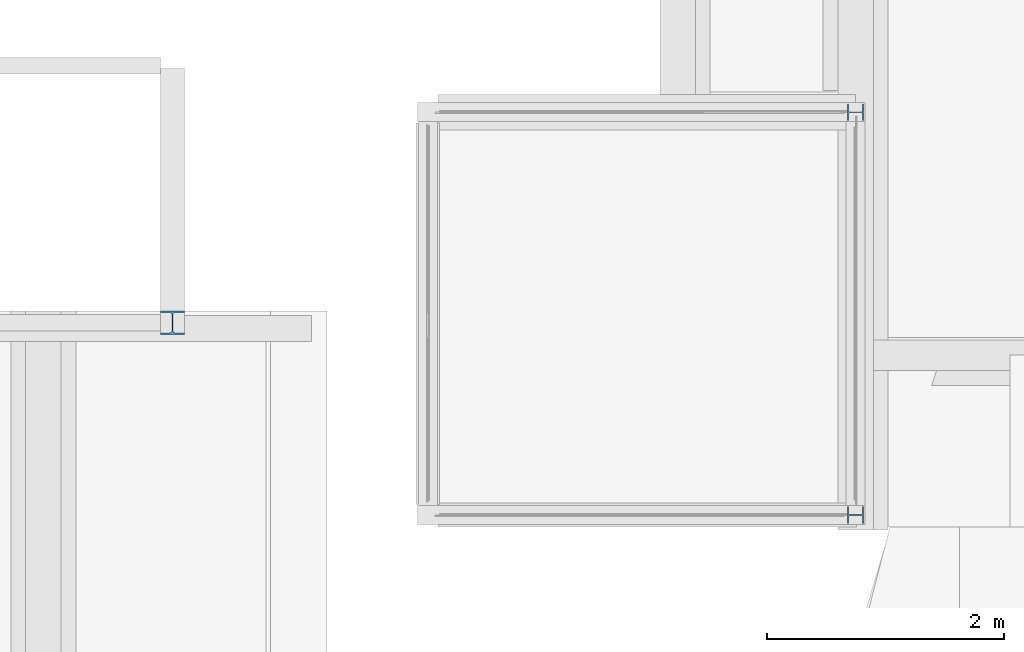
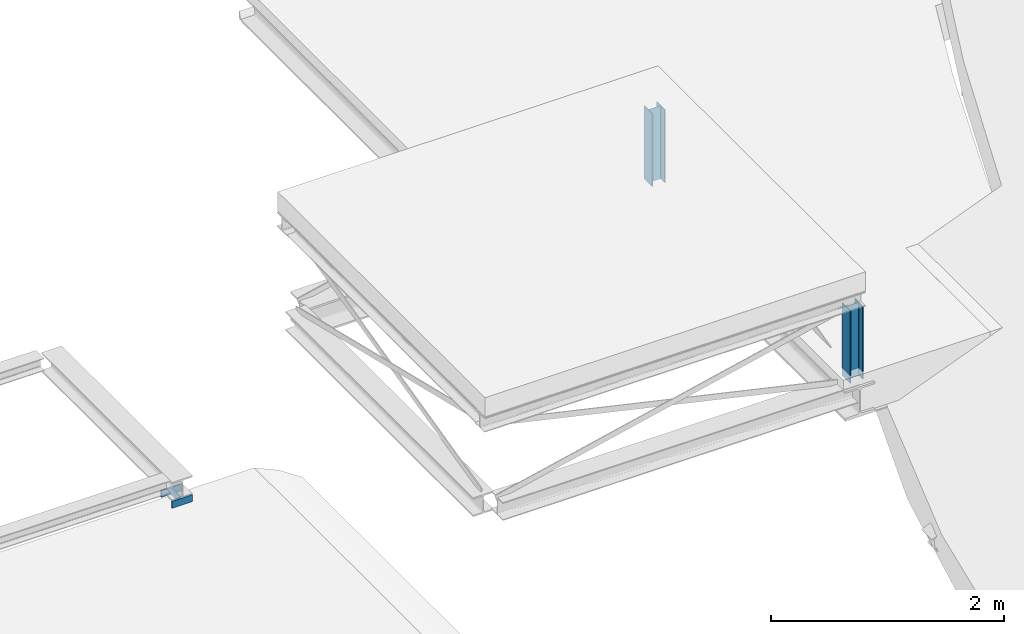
# One storey, part 6 of 50: 3 columns.
"""IFC2X3 building model written with IfcOpenShell, lengths in millimetres."""

from ifc_helpers import new_model, entity, si_unit, converted_unit, derived_unit, direction, frame, frame_2d, origin, origin_2d_with_axis, place, context, subcontext, project, spatial, i_section, extrude, source, transform, mapped, material, type_object, type_shapes, element, save


model = new_model("IFC2X3")

# Units and contexts
model_context = context("Model", 3, precision=0.01, world=origin(), true_north=direction((6.12303176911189e-17, 1.0)))
body_context = subcontext(model_context, "Body", "Model", "MODEL_VIEW")
ifc_project = project(units=[si_unit("LENGTHUNIT", "METRE", prefix="MILLI"), si_unit("AREAUNIT", "SQUARE_METRE", prefix="MILLI"), si_unit("VOLUMEUNIT", "CUBIC_METRE"), converted_unit("PLANEANGLEUNIT", "DEGREE", entity("IfcRatioMeasure", 0.0174532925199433), si_unit("PLANEANGLEUNIT", "RADIAN"), dimensions=[0, 0, 0, 0, 0, 0, 0]), si_unit("MASSUNIT", "GRAM", prefix="KILO"), derived_unit("MASSDENSITYUNIT", [(si_unit("MASSUNIT", "GRAM", prefix="KILO"), 1), (si_unit("LENGTHUNIT", "METRE"), -3)]), derived_unit("MOMENTOFINERTIAUNIT", [(si_unit("LENGTHUNIT", "METRE"), 4)]), si_unit("TIMEUNIT", "SECOND"), si_unit("FREQUENCYUNIT", "HERTZ"), si_unit("THERMODYNAMICTEMPERATUREUNIT", "DEGREE_CELSIUS"), derived_unit("THERMALTRANSMITTANCEUNIT", [(si_unit("MASSUNIT", "GRAM", prefix="KILO"), 1), (si_unit("THERMODYNAMICTEMPERATUREUNIT", "KELVIN"), -1), (si_unit("TIMEUNIT", "SECOND"), -3)]), derived_unit("VOLUMETRICFLOWRATEUNIT", [(si_unit("LENGTHUNIT", "METRE"), 3), (si_unit("TIMEUNIT", "SECOND"), -1)]), si_unit("ELECTRICCURRENTUNIT", "AMPERE"), si_unit("ELECTRICVOLTAGEUNIT", "VOLT"), si_unit("POWERUNIT", "WATT"), si_unit("FORCEUNIT", "NEWTON", prefix="KILO"), si_unit("ILLUMINANCEUNIT", "LUX"), si_unit("LUMINOUSFLUXUNIT", "LUMEN"), si_unit("LUMINOUSINTENSITYUNIT", "CANDELA"), derived_unit("USERDEFINED", [(si_unit("MASSUNIT", "GRAM", prefix="KILO"), -1), (si_unit("LENGTHUNIT", "METRE"), -2), (si_unit("TIMEUNIT", "SECOND"), 3), (si_unit("LUMINOUSFLUXUNIT", "LUMEN"), 1)]), derived_unit("LINEARVELOCITYUNIT", [(si_unit("LENGTHUNIT", "METRE"), 1), (si_unit("TIMEUNIT", "SECOND"), -1)]), si_unit("PRESSUREUNIT", "PASCAL"), derived_unit("USERDEFINED", [(si_unit("LENGTHUNIT", "METRE"), -2), (si_unit("MASSUNIT", "GRAM", prefix="KILO"), 1), (si_unit("TIMEUNIT", "SECOND"), -2)]), derived_unit("LINEARFORCEUNIT", [(si_unit("MASSUNIT", "GRAM", prefix="KILO"), 1), (si_unit("LENGTHUNIT", "METRE"), 1), (si_unit("TIMEUNIT", "SECOND"), -2), (si_unit("LENGTHUNIT", "METRE"), -1)]), derived_unit("PLANARFORCEUNIT", [(si_unit("MASSUNIT", "GRAM", prefix="KILO"), 1), (si_unit("LENGTHUNIT", "METRE"), 1), (si_unit("TIMEUNIT", "SECOND"), -2), (si_unit("LENGTHUNIT", "METRE"), -2)])], contexts=[model_context])

# Site, building, storey
site_placement = place(None, origin())
site = spatial("IfcSite", under=ifc_project, at=site_placement, Name="Theater aan de Parade", CompositionType="ELEMENT")
building_placement = place(site_placement, origin())
building = spatial("IfcBuilding", under=site, at=building_placement, Name="Theater aan de Parade", CompositionType="ELEMENT")
storey_placement = place(building_placement, frame((0.0, 0.0, 15820.0)))
storey = spatial("IfcBuildingStorey", under=building, at=storey_placement, Name="04 vierde verdieping", CompositionType="ELEMENT", Elevation=15820.0)

# Columns
ifc_material = material(Name="00_PBT_MAT_staal_S355")
column_type_1 = type_object("IfcColumnType", Name="28_PBT_SC_staal_H-profiel:S355_HE200B", PredefinedType="COLUMN", material=ifc_material)
shared_shape_1 = source(origin(), body_context, "Body", "SweptSolid", [
    extrude(i_section(OverallWidth=200.0, OverallDepth=200.0, WebThickness=8.99999999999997, FlangeThickness=14.9999999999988, FilletRadius=18.0, at=frame_2d((-4.05009359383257e-13, -1.4210854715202e-14), x_axis=(0.0, 1.0))), frame((0.0, 0.0, 15910.0), z_axis=(0.0, 0.0, 1.0), x_axis=(0.0, -1.0, 0.0)), (0.0, 0.0, 1.0), 72.000000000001),
])
type_shapes(column_type_1, [shared_shape_1])
column_1_placement = place(storey_placement, frame((35198.1862556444, 41473.3083270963, -15820.0), z_axis=(0.0, 0.0, 1.0), x_axis=(-1.0, 0.0, 0.0)))
element("IfcColumn", 1, at=column_1_placement, inside=storey, type_object=column_type_1, material=ifc_material, Name="28_PBT_SC_staal_H-profiel:S355_HE200B", ObjectType="28_PBT_SC_staal_H-profiel:S355_HE200B", context=body_context, shape_type="MappedRepresentation", body=[
    mapped(shared_shape_1, transform((0.0, 0.0, 0.0), scale=1.0)),
])
column_type_2 = type_object("IfcColumnType", Name="28_PBT_SC_staal_H-profiel:S355_HE140A", PredefinedType="COLUMN", material=ifc_material)
shared_shape_2 = source(origin(), body_context, "Body", "SweptSolid", [
    extrude(i_section(OverallWidth=140.000000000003, OverallDepth=132.999999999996, WebThickness=5.49999999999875, FlangeThickness=8.49999999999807, FilletRadius=11.999999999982, at=origin_2d_with_axis()), frame((40963.8581275, 43250.0, 16155.0), z_axis=(0.0, 0.0, 1.0), x_axis=(0.0, -1.0, 0.0)), (0.0, 0.0, 1.0), 763.0),
])
type_shapes(column_type_2, [shared_shape_2])
column_2_placement = place(storey_placement, frame((0.0, 0.0, -15820.0)))
element("IfcColumn", 2, at=column_2_placement, inside=storey, type_object=column_type_2, material=ifc_material, Name="28_PBT_SC_staal_H-profiel:S355_HE140A", ObjectType="28_PBT_SC_staal_H-profiel:S355_HE140A", context=body_context, shape_type="MappedRepresentation", body=[
    mapped(shared_shape_2, transform((0.0, 0.0, 0.0), scale=1.0)),
])
column_type_3 = type_object("IfcColumnType", Name="28_PBT_SC_staal_H-profiel:S355_HE140A", PredefinedType="COLUMN", material=ifc_material)
shared_shape_3 = source(origin(), body_context, "Body", "SweptSolid", [
    extrude(i_section(OverallWidth=140.000000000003, OverallDepth=132.999999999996, WebThickness=5.49999999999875, FlangeThickness=8.49999999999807, FilletRadius=11.999999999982, at=frame_2d((0.0, 8.66151594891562e-12), x_axis=(1.0, 0.0))), frame((40963.8581275, 39850.0, 16155.0), z_axis=(0.0, 0.0, 1.0), x_axis=(0.0, -1.0, 0.0)), (0.0, 0.0, 1.0), 763.0),
])
type_shapes(column_type_3, [shared_shape_3])
column_3_placement = place(storey_placement, frame((0.0, 0.0, -15820.0)))
element("IfcColumn", 3, at=column_3_placement, inside=storey, type_object=column_type_3, material=ifc_material, Name="28_PBT_SC_staal_H-profiel:S355_HE140A", ObjectType="28_PBT_SC_staal_H-profiel:S355_HE140A", context=body_context, shape_type="MappedRepresentation", body=[
    mapped(shared_shape_3, transform((0.0, 0.0, 0.0), scale=1.0)),
])

save(model, "model.ifc")
